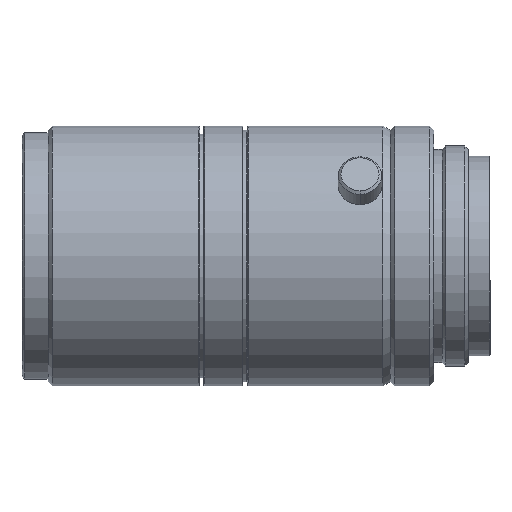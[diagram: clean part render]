
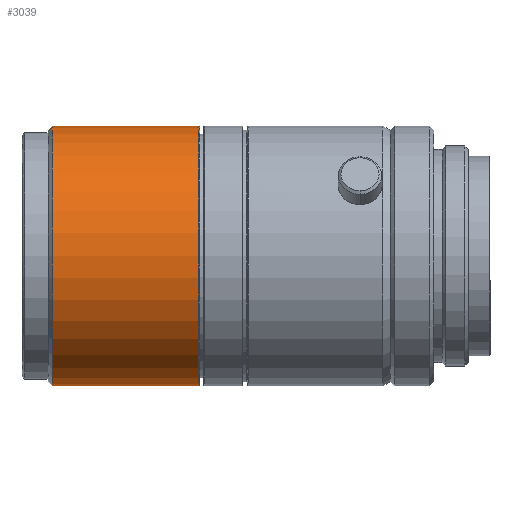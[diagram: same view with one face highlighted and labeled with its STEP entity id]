
A CAD part, top view. The second image highlights one B-rep face of the part: STEP entity #3039.
In plain terms, the highlighted cylindrical face has radius 15 mm (diameter 30 mm), a partial arc.
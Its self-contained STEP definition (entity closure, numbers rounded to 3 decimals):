
#10 = ORIENTED_EDGE ( 'NONE', *, *, #1138, .T. ) ;
#81 = DIRECTION ( 'NONE',  ( 1., 0., 0. ) ) ;
#331 = CARTESIAN_POINT ( 'NONE',  ( -44.626, 15., 0. ) ) ;
#352 = CARTESIAN_POINT ( 'NONE',  ( -61.526, -15., 0. ) ) ;
#353 = VECTOR ( 'NONE', #1233, 1000. ) ;
#370 = EDGE_LOOP ( 'NONE', ( #2630, #10, #973, #3264 ) ) ;
#493 = DIRECTION ( 'NONE',  ( 0., 1., 0. ) ) ;
#752 = FACE_OUTER_BOUND ( 'NONE', #370, .T. ) ;
#858 = VERTEX_POINT ( 'NONE', #3142 ) ;
#917 = CARTESIAN_POINT ( 'NONE',  ( 0., 15., 0. ) ) ;
#973 = ORIENTED_EDGE ( 'NONE', *, *, #1989, .F. ) ;
#984 = EDGE_CURVE ( 'NONE', #858, #3010, #2405, .T. ) ;
#1028 = DIRECTION ( 'NONE',  ( 1., 0., 0. ) ) ;
#1138 = EDGE_CURVE ( 'NONE', #3010, #2519, #3008, .T. ) ;
#1233 = DIRECTION ( 'NONE',  ( 1., 0., 0. ) ) ;
#1373 = CYLINDRICAL_SURFACE ( 'NONE', #2590, 15. ) ;
#1405 = DIRECTION ( 'NONE',  ( 0., 1., 0. ) ) ;
#1779 = CARTESIAN_POINT ( 'NONE',  ( -44.626, 0., 0. ) ) ;
#1890 = CIRCLE ( 'NONE', #2565, 15. ) ;
#1989 = EDGE_CURVE ( 'NONE', #2958, #2519, #1890, .T. ) ;
#2405 = CIRCLE ( 'NONE', #3279, 15. ) ;
#2519 = VERTEX_POINT ( 'NONE', #2547 ) ;
#2547 = CARTESIAN_POINT ( 'NONE',  ( -44.626, -15., 0. ) ) ;
#2565 = AXIS2_PLACEMENT_3D ( 'NONE', #1779, #1028, #493 ) ;
#2590 = AXIS2_PLACEMENT_3D ( 'NONE', #2689, #81, #1405 ) ;
#2630 = ORIENTED_EDGE ( 'NONE', *, *, #984, .T. ) ;
#2652 = LINE ( 'NONE', #917, #3225 ) ;
#2689 = CARTESIAN_POINT ( 'NONE',  ( 0., 0., 0. ) ) ;
#2708 = DIRECTION ( 'NONE',  ( 1., 0., 0. ) ) ;
#2720 = DIRECTION ( 'NONE',  ( 0., 1., 0. ) ) ;
#2958 = VERTEX_POINT ( 'NONE', #331 ) ;
#3008 = LINE ( 'NONE', #3133, #353 ) ;
#3010 = VERTEX_POINT ( 'NONE', #352 ) ;
#3039 = ADVANCED_FACE ( 'NONE', ( #752 ), #1373, .T. ) ;
#3071 = EDGE_CURVE ( 'NONE', #858, #2958, #2652, .T. ) ;
#3072 = DIRECTION ( 'NONE',  ( 1., 0., 0. ) ) ;
#3095 = CARTESIAN_POINT ( 'NONE',  ( -61.526, 0., 0. ) ) ;
#3133 = CARTESIAN_POINT ( 'NONE',  ( 0., -15., 0. ) ) ;
#3142 = CARTESIAN_POINT ( 'NONE',  ( -61.526, 15., 0. ) ) ;
#3225 = VECTOR ( 'NONE', #2708, 1000. ) ;
#3264 = ORIENTED_EDGE ( 'NONE', *, *, #3071, .F. ) ;
#3279 = AXIS2_PLACEMENT_3D ( 'NONE', #3095, #3072, #2720 ) ;
